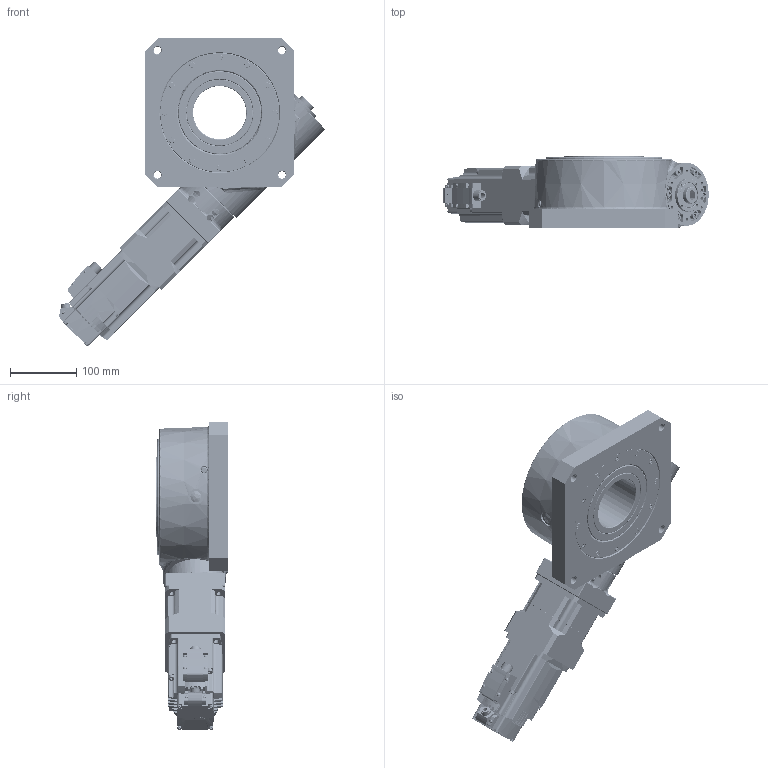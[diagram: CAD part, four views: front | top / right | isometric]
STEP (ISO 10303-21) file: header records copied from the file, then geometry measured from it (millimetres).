
FILE_DESCRIPTION (( 'STEP AP214' ), '1' );
FILE_NAME ('82HP-TAB090.STEP', '2021-12-22T08:46:41', ( 'Windows User' ), ( 'P R C' ), 'SwSTEP 2.0', 'SolidWorks 2020', '' );
FILE_SCHEMA (( 'AUTOMOTIVE_DESIGN' ));
Length unit declared in the file: millimetre
Products named in the file (27): HC82HP-01-04粣創俋揤裔_1; HC82HP-01-01眊极_1; HC82HP-01-07薊极芧謫; 蚐噩20; HC82HP-01-03粣創囀揤裔_1; 32906粣創30-47-12; 33005粣創25-47-17; 蚐猾28-38-7; 囀鞠褒M5X40; HC82HP-01-10嘀杶_1; 蚐黑ZG3%8_1; 囀鞠褒M6X15; HC82HP-01-05粣創綴裔_1; 囀鞠褒M5X10; 1FL6042-2AF21-1MA1; 囀鞠褒M5X15_1; TAB-090-L1-_19-_70-_90-M5; hc82hp-01-09; 蚐猾TC120X140X10; HC82HP-01-08; 82HP-TAB090; 蚐猾30-38-7; HC82HP-01-11-HB90鎮湛釱_1_1; HC82HP-01-02怀堤粣_1; 蚐黑ZG1%8_1; 囀鞠褒M5X20; 蚐猾TC100X125X10
Assembly tree (82 placements, depth 2):
  82HP-TAB090
    HC82HP-01-04粣創俋揤裔_1
    HC82HP-01-07薊极芧謫
    HC82HP-01-05粣創綴裔_1
    蚐猾TC100X125X10
    蚐猾TC120X140X10
    蚐猾28-38-7
    蚐猾30-38-7
    32906粣創30-47-12
    33005粣創25-47-17
    HC82HP-01-01眊极_1
    HC82HP-01-02怀堤粣_1
    HC82HP-01-03粣創囀揤裔_1
    hc82hp-01-09  x2
    HC82HP-01-08  x2
    HC82HP-01-10嘀杶_1
    囀鞠褒M5X15_1  x16
    囀鞠褒M5X20  x12
    囀鞠褒M5X10  x12
    蚐噩20
    蚐黑ZG1%8_1  x2
    囀鞠褒M6X15  x12
    囀鞠褒M5X40  x6
    蚐黑ZG3%8_1
    HC82HP-01-11-HB90鎮湛釱_1_1
    1FL6042-2AF21-1MA1
    TAB-090-L1-_19-_70-_90-M5
Bounding box: 399.41 x 108.09 x 463.71 mm (x, y, z)
Volume: 8285437.2 mm3; surface area: 977402.6 mm2
Topology: 89 solids, 93 shells, 3560 faces, 9149 edges, 6045 vertices
Faces by surface type: plane 1517, cylinder 1208, bspline 537, cone 268, torus 30
Entity records: 125947 total; most frequent: CARTESIAN_POINT 53890, ORIENTED_EDGE 11794, DIRECTION 10499, EDGE_CURVE 5897, VERTEX_POINT 3935, AXIS2_PLACEMENT_3D 3901, VECTOR 2697, LINE 2697
